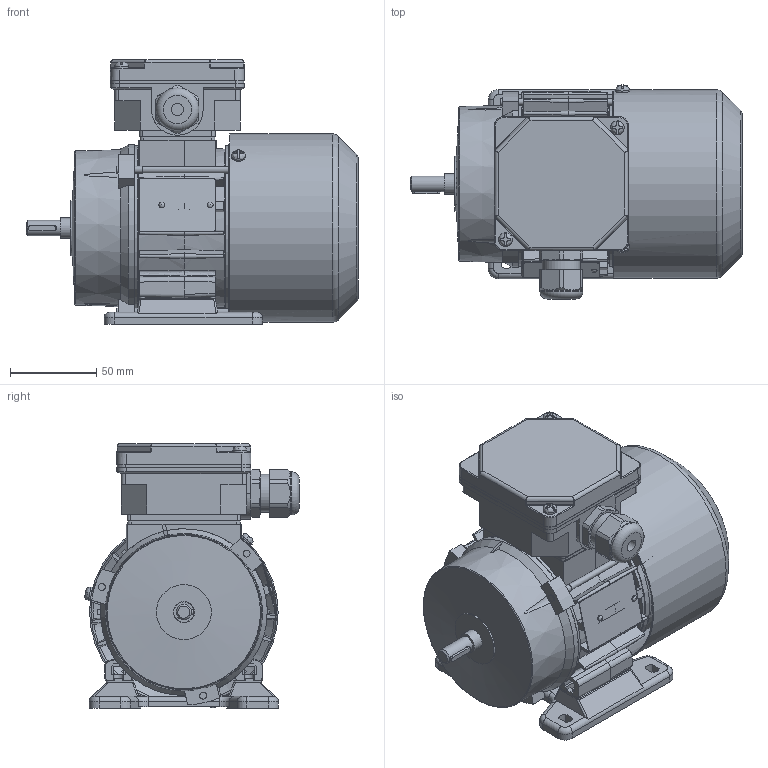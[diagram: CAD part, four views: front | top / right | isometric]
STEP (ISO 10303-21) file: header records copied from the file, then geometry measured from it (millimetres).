
FILE_DESCRIPTION( ( 'Unknown' ), '1' );
FILE_NAME( 'G:/Poczta Tk-1/STP/w.m.56/Sh56/Sh56-B.stp', 'Unknown', ( 'K. Szlosek' ), ( 'BESEL S.A.' ), 'PSStep 17.0.49', 'Unknown', ' ' );
FILE_SCHEMA( ( 'AUTOMOTIVE_DESIGN { 1 0 10303 214 1 1 1 1 }' ) );
Length unit declared in the file: millimetre
Products named in the file (29): Assem1; K4-2320 Uszczelka nr 1 Sh71,80; K3-9987 kadłub ze stojanem Sh56-B; K3-2193 Tarcza łożyskowa P Sg56-2..; K3-9990 wał Sh56-B; K2-0860 Pokrywka skrzynki zaciskowej; Wpust A3x3x16; K3-2977 Osłona przewietrznika Sg56; K4-2820 Uszczelka nr 2 Sh71,80; Wkręt samogwintujący M4x8; Wkręt samogwintujący M4x16; K2-0879 Przewietrznik Sg56; Nitokołek A 2x6; K3-2200 Tarcza łożyskowa N Sg56-...; K1-0484 Łapa Sg56-.. w. robocza; K2-0859 Podstawa skrzynki 6-cio zaciskowej; Dławnica M20x1,5; Łożysko 6201; Tabliczka znamionowa 32x44; Śruba ściągająca E_M4x75
Assembly tree (44 placements, depth 2):
  Assem1
    K4-2320 Uszczelka nr 1 Sh71,80
    K3-9987 kadłub ze stojanem Sh56-B
    K3-2193 Tarcza łożyskowa P Sg56-2..
    K3-9990 wał Sh56-B
    K2-0860 Pokrywka skrzynki zaciskowej
    Wpust A3x3x16
    K3-2977 Osłona przewietrznika Sg56
    K4-2820 Uszczelka nr 2 Sh71,80
    Wkręt samogwintujący M4x8  x3
    Wkręt samogwintujący M4x16  x2
    K2-0879 Przewietrznik Sg56
    Nitokołek A 2x6  x2
    K3-2200 Tarcza łożyskowa N Sg56-...
    K1-0484 Łapa Sg56-.. w. robocza
    K2-0859 Podstawa skrzynki 6-cio zaciskowej
    Dławnica M20x1,5
    Łożysko 6201  x2
    Łożysko 6201  x2
    Łożysko 6201  x2
    Łożysko 6201  x2
    Łożysko 6201  x2
    Łożysko 6201  x2
    Łożysko 6201  x2
    Łożysko 6201  x2
    Łożysko 6201  x2
    Łożysko 6201  x2
    Tabliczka znamionowa 32x44
    Śruba ściągająca E_M4x75  x3
Bounding box: 193 x 124.54 x 154 mm (x, y, z)
Volume: 420301.2 mm3; surface area: 308446.8 mm2
Topology: 44 solids, 60 shells, 1864 faces, 5065 edges, 3275 vertices
Faces by surface type: plane 979, cylinder 528, torus 135, cone 120, bspline 68, sphere 34
Full cylindrical faces by diameter (mm): 2 x2, 2.4 x2, 3.3 x3, 3.7 x10, 4 x8, 4.5 x4, 4.8 x4, 5 x4, 5.8 x4, 7 x4, 8 x6, 9 x1, 10.9 x1, 11 x1, 11.5 x1, 11.8 x2, 12 x4, 12.4 x2, 15.5 x1, 16 x1, 16.1 x1, 17 x2, 18 x1, 18.376 x1, 18.38 x1, 18.52 x4, 20 x1, 22.3 x1, 24 x2, 25 x1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
Entity records: 76823 total; most frequent: CARTESIAN_POINT 20361, ORIENTED_EDGE 8794, DIRECTION 8738, EDGE_CURVE 4397, AXIS2_PLACEMENT_3D 3238, VERTEX_POINT 2967, LINE 2262, VECTOR 2262
